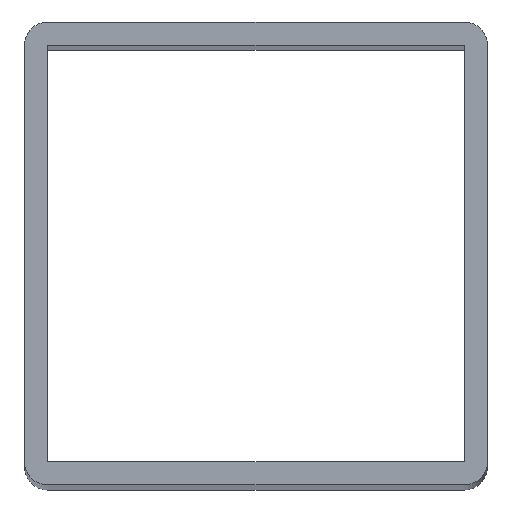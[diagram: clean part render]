
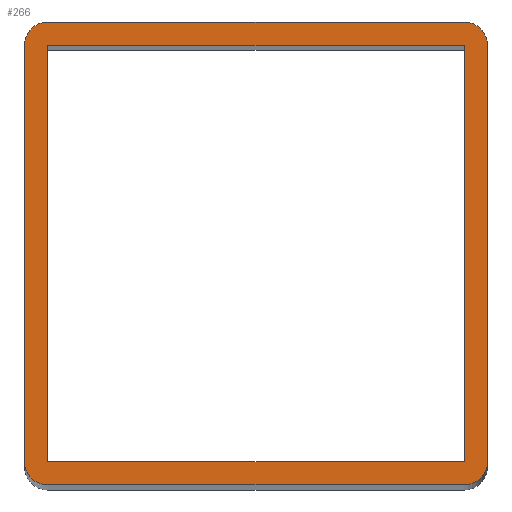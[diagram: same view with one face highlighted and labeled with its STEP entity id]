
A CAD part, top view. The second image highlights one B-rep face of the part: STEP entity #266.
In plain terms, the highlighted planar face has unit normal (0, 0, 1).
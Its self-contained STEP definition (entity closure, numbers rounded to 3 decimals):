
#16=FACE_BOUND('',#52,.T.);
#22=PLANE('',#311);
#36=FACE_OUTER_BOUND('',#51,.T.);
#51=EDGE_LOOP('',(#225,#226,#227,#228,#229,#230,#231,#232));
#52=EDGE_LOOP('',(#233,#234,#235,#236));
#61=LINE('',#405,#89);
#71=LINE('',#433,#99);
#74=LINE('',#441,#102);
#76=LINE('',#447,#104);
#77=LINE('',#451,#105);
#78=LINE('',#453,#106);
#79=LINE('',#455,#107);
#80=LINE('',#456,#108);
#89=VECTOR('',#330,10.);
#99=VECTOR('',#354,10.);
#102=VECTOR('',#363,10.);
#104=VECTOR('',#371,10.);
#105=VECTOR('',#374,10.);
#106=VECTOR('',#375,10.);
#107=VECTOR('',#376,10.);
#108=VECTOR('',#377,10.);
#113=CIRCLE('',#295,2.);
#118=CIRCLE('',#303,2.);
#119=CIRCLE('',#306,2.);
#120=CIRCLE('',#309,2.);
#121=VERTEX_POINT('',#392);
#122=VERTEX_POINT('',#393);
#126=VERTEX_POINT('',#403);
#136=VERTEX_POINT('',#427);
#137=VERTEX_POINT('',#431);
#138=VERTEX_POINT('',#435);
#139=VERTEX_POINT('',#436);
#140=VERTEX_POINT('',#443);
#141=VERTEX_POINT('',#449);
#142=VERTEX_POINT('',#450);
#143=VERTEX_POINT('',#452);
#144=VERTEX_POINT('',#454);
#145=EDGE_CURVE('',#121,#122,#113,.T.);
#151=EDGE_CURVE('',#121,#126,#61,.T.);
#162=EDGE_CURVE('',#136,#126,#118,.T.);
#165=EDGE_CURVE('',#136,#137,#71,.T.);
#166=EDGE_CURVE('',#138,#139,#119,.T.);
#169=EDGE_CURVE('',#138,#122,#74,.T.);
#170=EDGE_CURVE('',#140,#137,#120,.T.);
#172=EDGE_CURVE('',#140,#139,#76,.T.);
#173=EDGE_CURVE('',#141,#142,#77,.T.);
#174=EDGE_CURVE('',#142,#143,#78,.T.);
#175=EDGE_CURVE('',#143,#144,#79,.T.);
#176=EDGE_CURVE('',#144,#141,#80,.T.);
#225=ORIENTED_EDGE('',*,*,#145,.F.);
#226=ORIENTED_EDGE('',*,*,#151,.T.);
#227=ORIENTED_EDGE('',*,*,#162,.F.);
#228=ORIENTED_EDGE('',*,*,#165,.T.);
#229=ORIENTED_EDGE('',*,*,#170,.F.);
#230=ORIENTED_EDGE('',*,*,#172,.T.);
#231=ORIENTED_EDGE('',*,*,#166,.F.);
#232=ORIENTED_EDGE('',*,*,#169,.T.);
#233=ORIENTED_EDGE('',*,*,#173,.T.);
#234=ORIENTED_EDGE('',*,*,#174,.T.);
#235=ORIENTED_EDGE('',*,*,#175,.T.);
#236=ORIENTED_EDGE('',*,*,#176,.T.);
#266=ADVANCED_FACE('',(#36,#16),#22,.T.);
#295=AXIS2_PLACEMENT_3D('',#394,#320,#321);
#303=AXIS2_PLACEMENT_3D('',#428,#348,#349);
#306=AXIS2_PLACEMENT_3D('',#437,#357,#358);
#309=AXIS2_PLACEMENT_3D('',#444,#366,#367);
#311=AXIS2_PLACEMENT_3D('',#448,#372,#373);
#320=DIRECTION('center_axis',(0.,0.,-1.));
#321=DIRECTION('ref_axis',(-0.707,0.707,0.));
#330=DIRECTION('',(0.,-1.,0.));
#348=DIRECTION('center_axis',(0.,0.,-1.));
#349=DIRECTION('ref_axis',(-0.707,-0.707,0.));
#354=DIRECTION('',(1.,0.,0.));
#357=DIRECTION('center_axis',(0.,0.,-1.));
#358=DIRECTION('ref_axis',(0.707,0.707,0.));
#363=DIRECTION('',(-1.,0.,0.));
#366=DIRECTION('center_axis',(0.,0.,-1.));
#367=DIRECTION('ref_axis',(0.707,-0.707,0.));
#371=DIRECTION('',(0.,1.,0.));
#372=DIRECTION('center_axis',(0.,0.,1.));
#373=DIRECTION('ref_axis',(1.,0.,0.));
#374=DIRECTION('',(0.,-1.,0.));
#375=DIRECTION('',(-1.,0.,0.));
#376=DIRECTION('',(0.,1.,0.));
#377=DIRECTION('',(1.,0.,0.));
#392=CARTESIAN_POINT('',(-20.,18.,250.));
#393=CARTESIAN_POINT('',(-18.,20.,250.));
#394=CARTESIAN_POINT('Origin',(-18.,18.,250.));
#403=CARTESIAN_POINT('',(-20.,-18.,250.));
#405=CARTESIAN_POINT('',(-20.,20.,250.));
#427=CARTESIAN_POINT('',(-18.,-20.,250.));
#428=CARTESIAN_POINT('Origin',(-18.,-18.,250.));
#431=CARTESIAN_POINT('',(18.,-20.,250.));
#433=CARTESIAN_POINT('',(-20.,-20.,250.));
#435=CARTESIAN_POINT('',(18.,20.,250.));
#436=CARTESIAN_POINT('',(20.,18.,250.));
#437=CARTESIAN_POINT('Origin',(18.,18.,250.));
#441=CARTESIAN_POINT('',(20.,20.,250.));
#443=CARTESIAN_POINT('',(20.,-18.,250.));
#444=CARTESIAN_POINT('Origin',(18.,-18.,250.));
#447=CARTESIAN_POINT('',(20.,-20.,250.));
#448=CARTESIAN_POINT('Origin',(0.,0.,250.));
#449=CARTESIAN_POINT('',(18.,18.,250.));
#450=CARTESIAN_POINT('',(18.,-18.,250.));
#451=CARTESIAN_POINT('',(18.,9.,250.));
#452=CARTESIAN_POINT('',(-18.,-18.,250.));
#453=CARTESIAN_POINT('',(9.,-18.,250.));
#454=CARTESIAN_POINT('',(-18.,18.,250.));
#455=CARTESIAN_POINT('',(-18.,-9.,250.));
#456=CARTESIAN_POINT('',(-9.,18.,250.));
